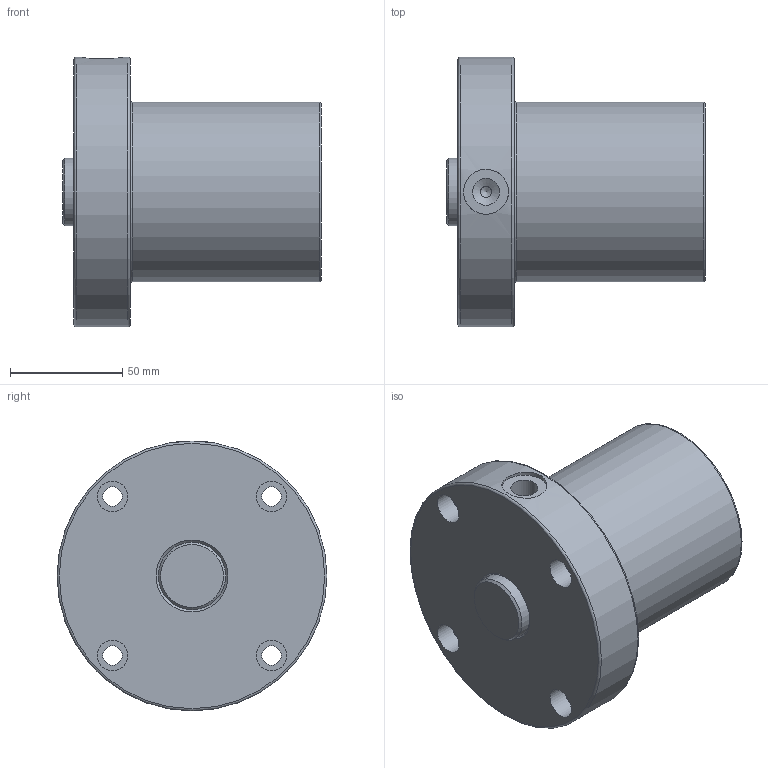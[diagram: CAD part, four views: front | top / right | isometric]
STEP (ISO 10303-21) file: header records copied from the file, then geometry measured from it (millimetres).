
FILE_DESCRIPTION( ( 'Unknown' ), '1' );
FILE_NAME( 'F:/JAKOB-STEP+IGES-Dateien/STEP-Dateien/ZDF/ZDFo 4000.stp', 'Unknown', ( 'Unknown' ), ( 'Unknown' ), 'XStep 1.0', 'Unknown', ' ' );
FILE_SCHEMA( ( 'CONFIG_CONTROL_DESIGN' ) );
Length unit declared in the file: millimetre
Products named in the file (1): 1
Bounding box: 115 x 120 x 120 mm (x, y, z)
Volume: 701234.8 mm3; surface area: 57258 mm2
Topology: 1 solids, 1 shells, 31 faces, 64 edges, 41 vertices
Faces by surface type: cylinder 14, plane 9, cone 4, torus 4
Full cylindrical faces by diameter (mm): 5 x1, 8.6 x4, 12 x1, 13.5 x4, 20 x1, 30 x1, 80 x1, 120 x1
Entity records: 808 total; most frequent: CARTESIAN_POINT 194, DIRECTION 130, EDGE_LOOP 68, ORIENTED_EDGE 68, AXIS2_PLACEMENT_3D 65, FACE_OUTER_BOUND 49, VERTEX_POINT 35, EDGE_CURVE 34
